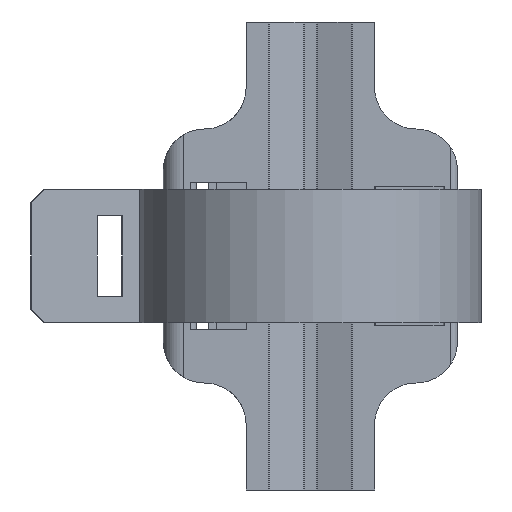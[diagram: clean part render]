
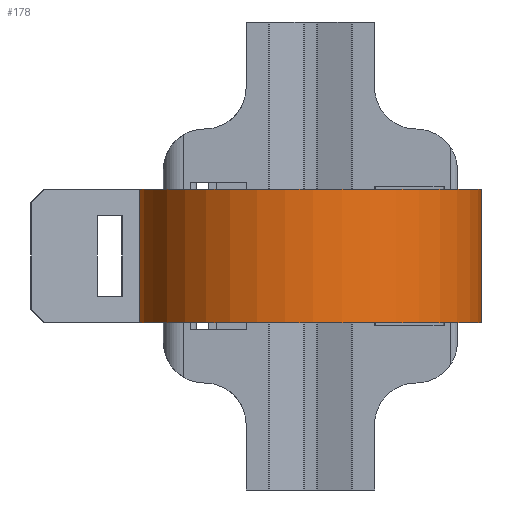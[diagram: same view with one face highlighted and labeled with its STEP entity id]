
A CAD part, front view. The second image highlights one B-rep face of the part: STEP entity #178.
In plain terms, the highlighted cylindrical face has radius 12.8 mm (diameter 25.6 mm), a partial arc.
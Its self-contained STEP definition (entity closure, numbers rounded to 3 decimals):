
#178 = ADVANCED_FACE( '', ( #479 ), #480, .T. );
#479 = FACE_OUTER_BOUND( '', #914, .T. );
#480 = CYLINDRICAL_SURFACE( '', #915, 12.8 );
#914 = EDGE_LOOP( '', ( #1401, #1402, #1403, #1404 ) );
#915 = AXIS2_PLACEMENT_3D( '', #1405, #1406, #1407 );
#1401 = ORIENTED_EDGE( '', *, *, #2693, .T. );
#1402 = ORIENTED_EDGE( '', *, *, #2694, .F. );
#1403 = ORIENTED_EDGE( '', *, *, #2695, .F. );
#1404 = ORIENTED_EDGE( '', *, *, #2696, .T. );
#1405 = CARTESIAN_POINT( '', ( 0., -11.65, 5. ) );
#1406 = DIRECTION( '', ( 0., 0., 1. ) );
#1407 = DIRECTION( '', ( -1., 0., 0. ) );
#2693 = EDGE_CURVE( '', #3266, #3267, #3268, .T. );
#2694 = EDGE_CURVE( '', #3269, #3267, #3270, .T. );
#2695 = EDGE_CURVE( '', #3271, #3269, #3272, .T. );
#2696 = EDGE_CURVE( '', #3271, #3266, #3273, .T. );
#3266 = VERTEX_POINT( '', #4116 );
#3267 = VERTEX_POINT( '', #4117 );
#3268 = CIRCLE( '', #4118, 12.8 );
#3269 = VERTEX_POINT( '', #4119 );
#3270 = LINE( '', #4120, #4121 );
#3271 = VERTEX_POINT( '', #4122 );
#3272 = CIRCLE( '', #4123, 12.8 );
#3273 = LINE( '', #4124, #4125 );
#4116 = CARTESIAN_POINT( '', ( -11.619, -6.281, -5. ) );
#4117 = CARTESIAN_POINT( '', ( 12.231, -7.875, -5. ) );
#4118 = AXIS2_PLACEMENT_3D( '', #5197, #5198, #5199 );
#4119 = CARTESIAN_POINT( '', ( 12.231, -7.875, 5. ) );
#4120 = CARTESIAN_POINT( '', ( 12.231, -7.875, 5. ) );
#4121 = VECTOR( '', #5200, 1000. );
#4122 = CARTESIAN_POINT( '', ( -11.619, -6.281, 5. ) );
#4123 = AXIS2_PLACEMENT_3D( '', #5201, #5202, #5203 );
#4124 = CARTESIAN_POINT( '', ( -11.619, -6.281, 5. ) );
#4125 = VECTOR( '', #5204, 1000. );
#5197 = CARTESIAN_POINT( '', ( 0., -11.65, -5. ) );
#5198 = DIRECTION( '', ( 0., 0., 1. ) );
#5199 = DIRECTION( '', ( 1., 0., 0. ) );
#5200 = DIRECTION( '', ( 0., 0., -1. ) );
#5201 = CARTESIAN_POINT( '', ( 0., -11.65, 5. ) );
#5202 = DIRECTION( '', ( 0., 0., 1. ) );
#5203 = DIRECTION( '', ( 1., 0., 0. ) );
#5204 = DIRECTION( '', ( 0., 0., -1. ) );
